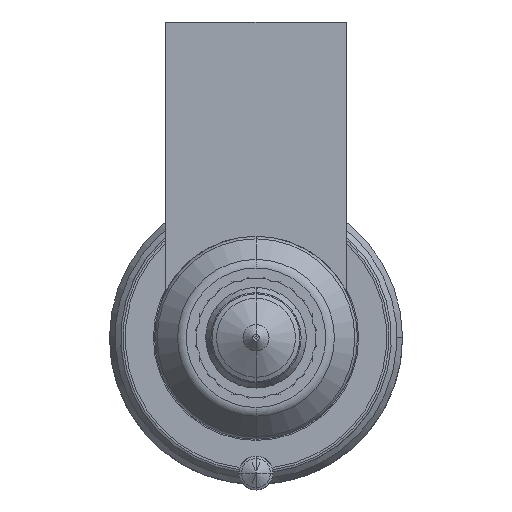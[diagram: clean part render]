
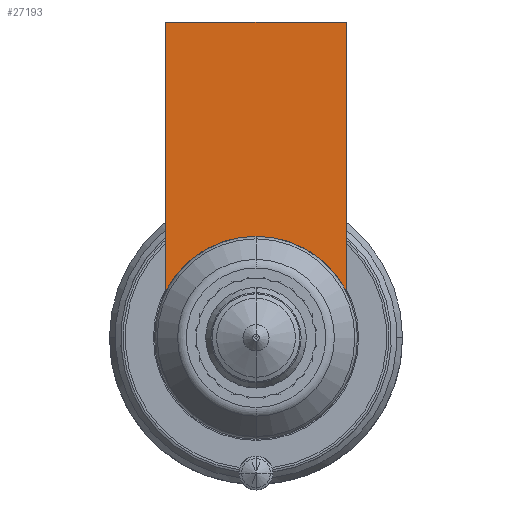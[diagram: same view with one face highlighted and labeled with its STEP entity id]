
A CAD part, front view. The second image highlights one B-rep face of the part: STEP entity #27193.
In plain terms, the highlighted planar face has unit normal (0, -1, 0).
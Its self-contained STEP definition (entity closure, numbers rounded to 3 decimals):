
#26386=CARTESIAN_POINT('',(0.,-54.,0.));
#26387=DIRECTION('',(0.,-1.,0.));
#26388=DIRECTION('',(0.,0.,1.));
#26389=AXIS2_PLACEMENT_3D('',#26386,#26387,#26388);
#26395=DIRECTION('',(1.,0.,0.));
#26396=VECTOR('',#26395,16.);
#26397=CARTESIAN_POINT('',(-8.,-54.,28.));
#26398=LINE('',#26397,#26396);
#26402=CARTESIAN_POINT('',(0.,-54.,0.));
#26403=DIRECTION('',(0.,-1.,0.));
#26404=DIRECTION('',(0.889,0.,0.458));
#26405=AXIS2_PLACEMENT_3D('',#26402,#26403,#26404);
#26553=DIRECTION('',(0.,0.,-1.));
#26554=VECTOR('',#26553,23.877);
#26555=CARTESIAN_POINT('',(8.,-54.,28.));
#26556=LINE('',#26555,#26554);
#26616=DIRECTION('',(0.,0.,-1.));
#26617=VECTOR('',#26616,23.877);
#26618=CARTESIAN_POINT('',(-8.,-54.,28.));
#26619=LINE('',#26618,#26617);
#27151=CARTESIAN_POINT('',(-8.,-54.,28.));
#27152=VERTEX_POINT('',#27151);
#27157=CARTESIAN_POINT('',(8.,-54.,28.));
#27158=VERTEX_POINT('',#27157);
#27163=CARTESIAN_POINT('',(0.,-54.,9.));
#27164=CARTESIAN_POINT('',(-8.,-54.,4.123));
#27165=VERTEX_POINT('',#27163);
#27166=VERTEX_POINT('',#27164);
#27167=CARTESIAN_POINT('',(8.,-54.,4.123));
#27168=VERTEX_POINT('',#27167);
#27176=CARTESIAN_POINT('',(0.,-54.,9.));
#27177=DIRECTION('',(0.,1.,0.));
#27178=DIRECTION('',(0.,0.,-1.));
#27179=AXIS2_PLACEMENT_3D('',#27176,#27177,#27178);
#27180=PLANE('',#27179);
#27182=ORIENTED_EDGE('',*,*,#27181,.T.);
#27184=ORIENTED_EDGE('',*,*,#27183,.F.);
#27186=ORIENTED_EDGE('',*,*,#27185,.T.);
#27188=ORIENTED_EDGE('',*,*,#27187,.T.);
#27190=ORIENTED_EDGE('',*,*,#27189,.T.);
#27191=EDGE_LOOP('',(#27182,#27184,#27186,#27188,#27190));
#27192=FACE_OUTER_BOUND('',#27191,.F.);
#27193=ADVANCED_FACE('',(#27192),#27180,.F.);
#26390=CIRCLE('',#26389,9.);
#26406=CIRCLE('',#26405,9.);
#27181=EDGE_CURVE('',#27165,#27166,#26390,.T.);
#27183=EDGE_CURVE('',#27152,#27166,#26619,.T.);
#27185=EDGE_CURVE('',#27152,#27158,#26398,.T.);
#27187=EDGE_CURVE('',#27158,#27168,#26556,.T.);
#27189=EDGE_CURVE('',#27168,#27165,#26406,.T.);
